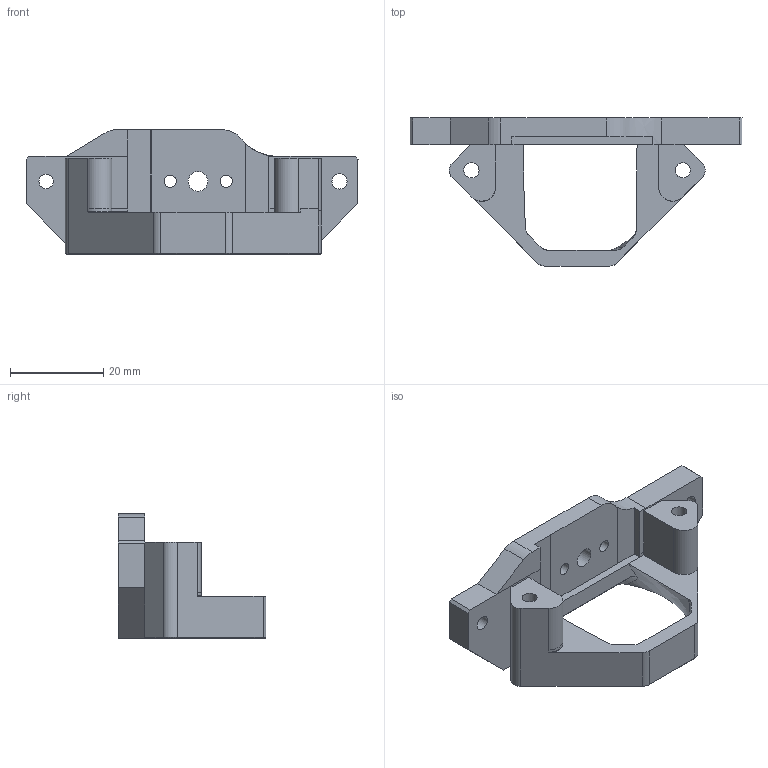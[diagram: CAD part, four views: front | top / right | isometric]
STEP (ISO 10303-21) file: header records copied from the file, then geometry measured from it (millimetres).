
FILE_DESCRIPTION(/* description */ (''),/* implementation_level */ '2;1');
FILE_NAME(/* name */ 'mount-sherpa-mini-r1-nf-crazy-plus-2.1.step',/* time_stamp */ '2023-01-19T18:54:52+01:00',/* author */ (''),/* organization */ (''),/* preprocessor_version */ 'ST-DEVELOPER v19.2',/* originating_system */ 'Autodesk Translation Framework v11.17.0.187',/* authorisation */ '');
FILE_SCHEMA (('AUTOMOTIVE_DESIGN { 1 0 10303 214 3 1 1 }'));
Length unit declared in the file: millimetre
Products named in the file (1): mount-sherpa-mini-r1-mosquito-2.1
Bounding box: 71.07 x 31.68 x 26.66 mm (x, y, z)
Volume: 12426.6 mm3; surface area: 7426.8 mm2
Topology: 1 solids, 1 shells, 100 faces, 277 edges, 182 vertices
Faces by surface type: plane 51, cylinder 24, bspline 17, cone 8
Full cylindrical faces by diameter (mm): 2.6 x2, 3.1 x1, 3.25 x4, 3.3 x2, 4.2 x1, 4.6 x2
Entity records: 4233 total; most frequent: CARTESIAN_POINT 1682, ORIENTED_EDGE 554, DIRECTION 464, EDGE_CURVE 277, VERTEX_POINT 182, LINE 166, VECTOR 166, AXIS2_PLACEMENT_3D 149
